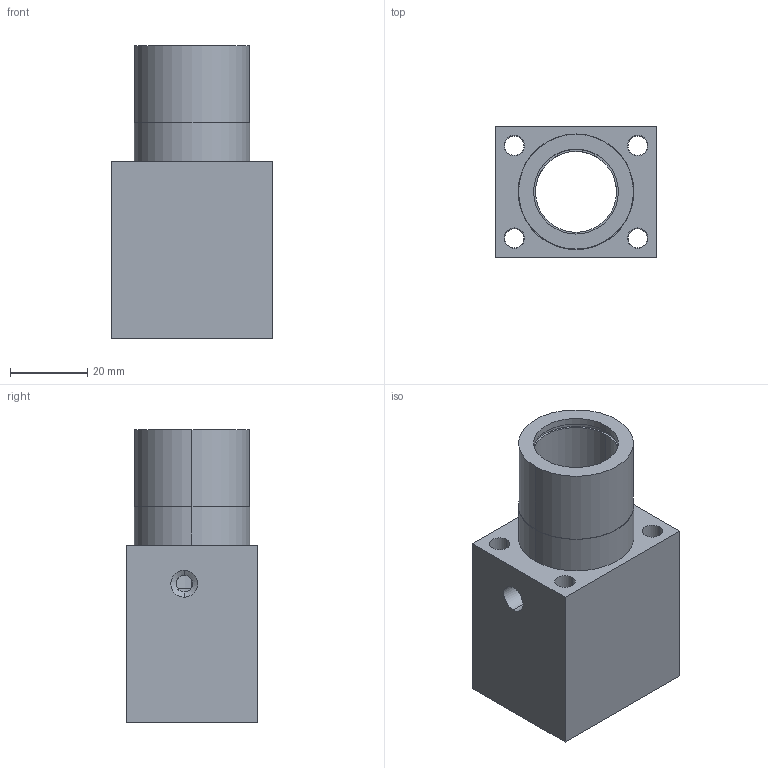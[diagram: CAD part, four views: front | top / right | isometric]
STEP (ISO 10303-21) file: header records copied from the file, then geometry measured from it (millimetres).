
FILE_DESCRIPTION (( 'STEP AP203' ), '1' );
FILE_NAME ('KTFG83-12.SLDPRT.step', '2020-06-15T06:41:32', ( '' ), ( '' ), 'SwSTEP 2.0', 'SolidWorks 2019', '' );
FILE_SCHEMA (( 'CONFIG_CONTROL_DESIGN' ));
Length unit declared in the file: millimetre
Products named in the file (2): KTFG83-12.SLDPRT
Bounding box: 42 x 34 x 76 mm (x, y, z)
Volume: 53641.1 mm3; surface area: 20386.6 mm2
Topology: 1 solids, 1 shells, 63 faces, 145 edges, 90 vertices
Faces by surface type: cylinder 39, plane 14, cone 10
Entity records: 2016 total; most frequent: CARTESIAN_POINT 354, DIRECTION 345, ORIENTED_EDGE 290, EDGE_CURVE 145, AXIS2_PLACEMENT_3D 141, VERTEX_POINT 90, EDGE_LOOP 81, CIRCLE 76
